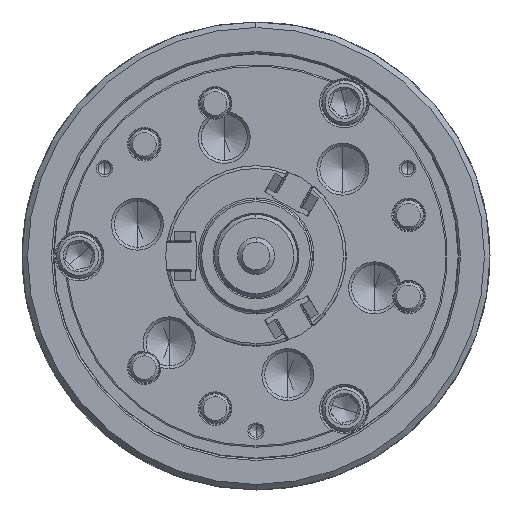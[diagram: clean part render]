
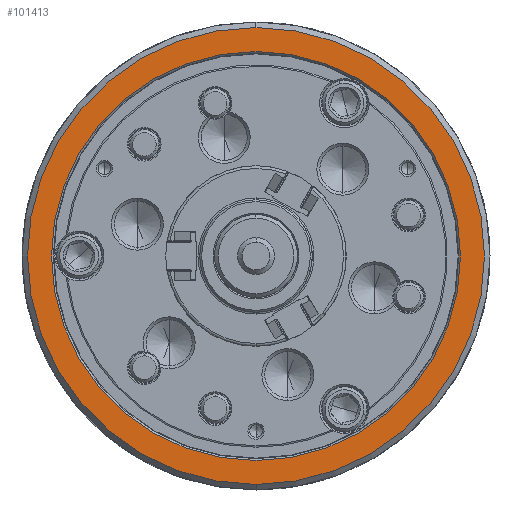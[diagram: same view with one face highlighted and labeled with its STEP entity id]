
A CAD part, left-side view. The second image highlights one B-rep face of the part: STEP entity #101413.
In plain terms, the highlighted planar face has unit normal (-1, 0, 0).
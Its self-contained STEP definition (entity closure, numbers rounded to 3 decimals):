
#631 = CIRCLE ( 'NONE', #68466, 111. ) ;
#4137 = CARTESIAN_POINT ( 'NONE',  ( -89., 0., 124. ) ) ;
#5743 = EDGE_LOOP ( 'NONE', ( #63091, #62998 ) ) ;
#7863 = EDGE_CURVE ( 'NONE', #54485, #93914, #93492, .T. ) ;
#10817 = PLANE ( 'NONE',  #118184 ) ;
#11407 = FACE_OUTER_BOUND ( 'NONE', #5743, .T. ) ;
#12080 = AXIS2_PLACEMENT_3D ( 'NONE', #51308, #13735, #43410 ) ;
#12819 = CIRCLE ( 'NONE', #55381, 111. ) ;
#13735 = DIRECTION ( 'NONE',  ( 1., 0., 0. ) ) ;
#19923 = DIRECTION ( 'NONE',  ( 1., 0., 0. ) ) ;
#20374 = DIRECTION ( 'NONE',  ( 0., 0., -1. ) ) ;
#23636 = DIRECTION ( 'NONE',  ( 0., 0., -1. ) ) ;
#27644 = EDGE_CURVE ( 'NONE', #100562, #66088, #12819, .T. ) ;
#27852 = FACE_BOUND ( 'NONE', #72499, .T. ) ;
#32118 = DIRECTION ( 'NONE',  ( 0., 0., -1. ) ) ;
#34896 = CARTESIAN_POINT ( 'NONE',  ( -89., 0., -111. ) ) ;
#43410 = DIRECTION ( 'NONE',  ( 0., 0., -1. ) ) ;
#44843 = CARTESIAN_POINT ( 'NONE',  ( -89., 0., -124. ) ) ;
#50877 = DIRECTION ( 'NONE',  ( 1., 0., 0. ) ) ;
#51308 = CARTESIAN_POINT ( 'NONE',  ( -89., 0., 0. ) ) ;
#54485 = VERTEX_POINT ( 'NONE', #44843 ) ;
#55381 = AXIS2_PLACEMENT_3D ( 'NONE', #66458, #103424, #20374 ) ;
#57535 = CARTESIAN_POINT ( 'NONE',  ( -89., -124., 0. ) ) ;
#59446 = CARTESIAN_POINT ( 'NONE',  ( -89., 0., 0. ) ) ;
#62998 = ORIENTED_EDGE ( 'NONE', *, *, #84074, .F. ) ;
#63091 = ORIENTED_EDGE ( 'NONE', *, *, #7863, .F. ) ;
#65304 = EDGE_CURVE ( 'NONE', #66088, #100562, #631, .T. ) ;
#66088 = VERTEX_POINT ( 'NONE', #34896 ) ;
#66458 = CARTESIAN_POINT ( 'NONE',  ( -89., 0., 0. ) ) ;
#68466 = AXIS2_PLACEMENT_3D ( 'NONE', #114561, #50877, #32118 ) ;
#70171 = CARTESIAN_POINT ( 'NONE',  ( -89., 0., 111. ) ) ;
#72499 = EDGE_LOOP ( 'NONE', ( #114054, #104634 ) ) ;
#84074 = EDGE_CURVE ( 'NONE', #93914, #54485, #116652, .T. ) ;
#92652 = DIRECTION ( 'NONE',  ( 0., 0., -1. ) ) ;
#93492 = CIRCLE ( 'NONE', #99289, 124. ) ;
#93914 = VERTEX_POINT ( 'NONE', #4137 ) ;
#96374 = DIRECTION ( 'NONE',  ( 1., 0., 0. ) ) ;
#99289 = AXIS2_PLACEMENT_3D ( 'NONE', #59446, #96374, #23636 ) ;
#100562 = VERTEX_POINT ( 'NONE', #70171 ) ;
#101413 = ADVANCED_FACE ( 'NONE', ( #11407, #27852 ), #10817, .F. ) ;
#103424 = DIRECTION ( 'NONE',  ( 1., 0., 0. ) ) ;
#104634 = ORIENTED_EDGE ( 'NONE', *, *, #65304, .T. ) ;
#114054 = ORIENTED_EDGE ( 'NONE', *, *, #27644, .T. ) ;
#114561 = CARTESIAN_POINT ( 'NONE',  ( -89., 0., 0. ) ) ;
#116652 = CIRCLE ( 'NONE', #12080, 124. ) ;
#118184 = AXIS2_PLACEMENT_3D ( 'NONE', #57535, #19923, #92652 ) ;
